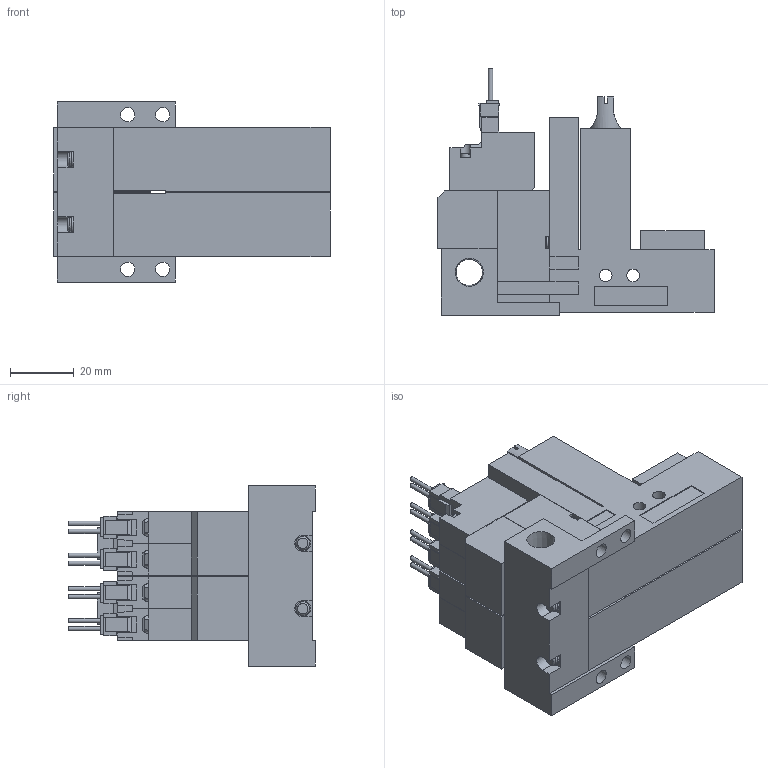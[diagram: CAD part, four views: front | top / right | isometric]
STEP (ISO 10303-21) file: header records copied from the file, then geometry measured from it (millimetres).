
FILE_DESCRIPTION(('STEP AP203'),'1');
FILE_NAME('ZL5BLR202.stp','2025-02-18T06:20:47',(' '),(' '),'Spatial InterOp 3D',' ',' ');
FILE_SCHEMA(('CONFIG_CONTROL_DESIGN'));
Length unit declared in the file: millimetre
Products named in the file (5): BMC22M※※※※ZL5BLR202; Solenoid valve B; Pressure sensor ZL; Unit L; Base MR20R
Assembly tree (7 placements, depth 2):
  BMC22M※※※※ZL5BLR202
    Solenoid valve B  x2
    Pressure sensor ZL  x2
    Unit L  x2
    Base MR20R
Bounding box: 86.6 x 77.45 x 56.5 mm (x, y, z)
Volume: 157050.7 mm3; surface area: 45639.5 mm2
Topology: 7 solids, 7 shells, 665 faces, 1811 edges, 1196 vertices
Faces by surface type: plane 570, cylinder 73, cone 16, torus 6
Full cylindrical faces by diameter (mm): 1.4 x8, 2.5 x2, 3 x8, 3.5 x8, 3.6 x2, 4 x4, 4.134 x2, 4.5 x4, 5.2 x2, 6 x2, 6.6 x2, 8.279 x1
Entity records: 11268 total; most frequent: CARTESIAN_POINT 2087, ORIENTED_EDGE 1816, DIRECTION 1772, EDGE_CURVE 908, LINE 768, VECTOR 768, VERTEX_POINT 627, AXIS2_PLACEMENT_3D 502
